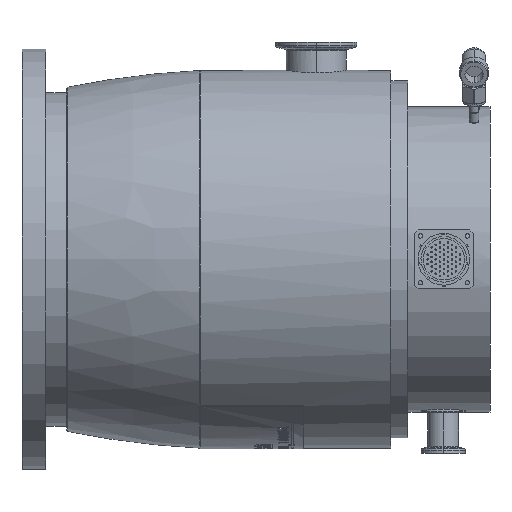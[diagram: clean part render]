
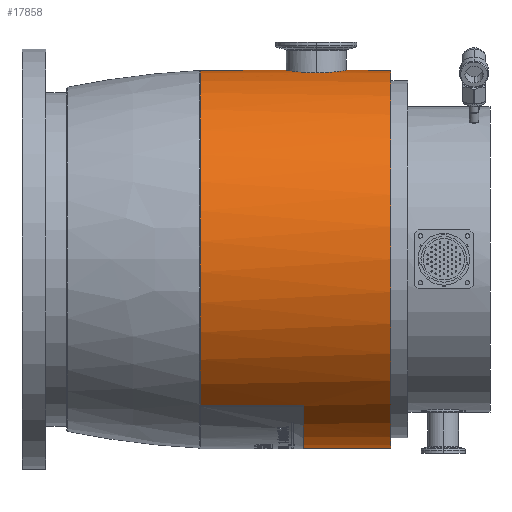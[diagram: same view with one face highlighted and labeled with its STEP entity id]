
A CAD part, left-side view. The second image highlights one B-rep face of the part: STEP entity #17858.
In plain terms, the highlighted cylindrical face has radius 128 mm (diameter 256 mm), a partial arc.
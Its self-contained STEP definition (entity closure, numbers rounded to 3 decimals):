
#3174=CARTESIAN_POINT('',(0.,118.85,0.));
#3175=DIRECTION('',(0.,-1.,0.));
#3176=DIRECTION('',(-0.631,0.,-0.776));
#3177=AXIS2_PLACEMENT_3D('',#3174,#3175,#3176);
#3179=DIRECTION('',(0.,-1.,0.));
#3180=VECTOR('',#3179,70.);
#3181=CARTESIAN_POINT('',(-80.751,188.85,-99.314));
#3182=LINE('',#3181,#3180);
#3183=DIRECTION('',(0.,1.,0.));
#3184=VECTOR('',#3183,58.4);
#3185=CARTESIAN_POINT('',(0.,130.45,128.));
#3186=LINE('',#3185,#3184);
#3187=CARTESIAN_POINT('',(0.,130.45,128.));
#3188=CARTESIAN_POINT('',(-1.277,130.45,128.));
#3189=CARTESIAN_POINT('',(-3.824,130.224,127.964));
#3190=CARTESIAN_POINT('',(-7.846,129.029,127.779));
#3191=CARTESIAN_POINT('',(-11.389,127.12,127.507));
#3192=CARTESIAN_POINT('',(-14.481,124.582,127.189));
#3193=CARTESIAN_POINT('',(-17.017,121.496,126.87));
#3194=CARTESIAN_POINT('',(-18.921,117.947,126.597));
#3195=CARTESIAN_POINT('',(-20.09,114.077,126.414));
#3196=CARTESIAN_POINT('',(-20.35,111.444,126.372));
#3197=CARTESIAN_POINT('',(-20.35,110.1,126.372));
#3199=CARTESIAN_POINT('',(-20.35,110.1,126.372));
#3200=CARTESIAN_POINT('',(-20.35,108.757,126.372));
#3201=CARTESIAN_POINT('',(-20.09,106.124,126.414));
#3202=CARTESIAN_POINT('',(-18.921,102.254,126.597));
#3203=CARTESIAN_POINT('',(-17.019,98.706,126.87));
#3204=CARTESIAN_POINT('',(-14.481,95.618,127.189));
#3205=CARTESIAN_POINT('',(-11.4,93.089,127.505));
#3206=CARTESIAN_POINT('',(-7.867,91.18,127.777));
#3207=CARTESIAN_POINT('',(-3.835,89.978,127.963));
#3208=CARTESIAN_POINT('',(-1.281,89.75,128.));
#3209=CARTESIAN_POINT('',(0.,89.75,128.));
#3211=DIRECTION('',(0.,1.,0.));
#3212=VECTOR('',#3211,30.25);
#3213=CARTESIAN_POINT('',(0.,59.5,128.));
#3214=LINE('',#3213,#3212);
#3215=CARTESIAN_POINT('',(0.,59.5,0.));
#3216=DIRECTION('',(0.,1.,0.));
#3217=DIRECTION('',(0.,0.,-1.));
#3218=AXIS2_PLACEMENT_3D('',#3215,#3216,#3217);
#3220=DIRECTION('',(0.,1.,0.));
#3221=VECTOR('',#3220,59.35);
#3222=CARTESIAN_POINT('',(0.,59.5,-128.));
#3223=LINE('',#3222,#3221);
#3296=CARTESIAN_POINT('',(0.,89.75,128.));
#3318=CARTESIAN_POINT('',(0.,130.45,128.));
#4914=CARTESIAN_POINT('',(0.,188.85,0.));
#4915=DIRECTION('',(0.,1.,0.));
#4916=DIRECTION('',(-0.631,0.,-0.776));
#4917=AXIS2_PLACEMENT_3D('',#4914,#4915,#4916);
#11367=CARTESIAN_POINT('',(0.,188.85,128.));
#11369=VERTEX_POINT('',#11367);
#11387=CARTESIAN_POINT('',(0.,59.5,-128.));
#11388=CARTESIAN_POINT('',(0.,59.5,128.));
#11389=VERTEX_POINT('',#11387);
#11390=VERTEX_POINT('',#11388);
#11423=VERTEX_POINT('',#3296);
#11425=VERTEX_POINT('',#3318);
#11426=VERTEX_POINT('',#3199);
#13585=CARTESIAN_POINT('',(0.,118.85,-128.));
#13587=VERTEX_POINT('',#13585);
#13593=CARTESIAN_POINT('',(-80.751,118.85,-99.314));
#13594=VERTEX_POINT('',#13593);
#13595=CARTESIAN_POINT('',(-80.751,188.85,-99.314));
#13596=VERTEX_POINT('',#13595);
#17834=CARTESIAN_POINT('',(0.,325.381,0.));
#17835=DIRECTION('',(0.,-1.,0.));
#17836=DIRECTION('',(0.,0.,1.));
#17837=AXIS2_PLACEMENT_3D('',#17834,#17835,#17836);
#17838=CYLINDRICAL_SURFACE('',#17837,128.);
#17840=ORIENTED_EDGE('',*,*,#17839,.F.);
#17842=ORIENTED_EDGE('',*,*,#17841,.F.);
#17844=ORIENTED_EDGE('',*,*,#17843,.T.);
#17846=ORIENTED_EDGE('',*,*,#17845,.F.);
#17848=ORIENTED_EDGE('',*,*,#17847,.T.);
#17850=ORIENTED_EDGE('',*,*,#17849,.T.);
#17852=ORIENTED_EDGE('',*,*,#17851,.F.);
#17853=ORIENTED_EDGE('',*,*,#17739,.F.);
#17855=ORIENTED_EDGE('',*,*,#17854,.T.);
#17856=EDGE_LOOP('',(#17840,#17842,#17844,#17846,#17848,#17850,#17852,#17853,
#17855));
#17857=FACE_OUTER_BOUND('',#17856,.F.);
#17858=ADVANCED_FACE('',(#17857),#17838,.T.);
#3178=CIRCLE('',#3177,128.);
#3198=B_SPLINE_CURVE_WITH_KNOTS('',3,(#3187,#3188,#3189,#3190,#3191,#3192,#3193,
#3194,#3195,#3196,#3197),.UNSPECIFIED.,.F.,.F.,(4,1,1,1,1,1,1,1,4),(0.,
0.125,0.25,0.375,0.5,0.625,0.75,0.875,1.),.UNSPECIFIED.);
#3210=B_SPLINE_CURVE_WITH_KNOTS('',3,(#3199,#3200,#3201,#3202,#3203,#3204,#3205,
#3206,#3207,#3208,#3209),.UNSPECIFIED.,.F.,.F.,(4,1,1,1,1,1,1,1,4),(0.,
0.125,0.25,0.375,0.5,0.625,0.75,0.875,1.),.UNSPECIFIED.);
#3219=CIRCLE('',#3218,128.);
#4918=CIRCLE('',#4917,128.);
#17739=EDGE_CURVE('',#11389,#11390,#3219,.T.);
#17839=EDGE_CURVE('',#13594,#13587,#3178,.T.);
#17841=EDGE_CURVE('',#13596,#13594,#3182,.T.);
#17843=EDGE_CURVE('',#13596,#11369,#4918,.T.);
#17845=EDGE_CURVE('',#11425,#11369,#3186,.T.);
#17847=EDGE_CURVE('',#11425,#11426,#3198,.T.);
#17849=EDGE_CURVE('',#11426,#11423,#3210,.T.);
#17851=EDGE_CURVE('',#11390,#11423,#3214,.T.);
#17854=EDGE_CURVE('',#11389,#13587,#3223,.T.);
